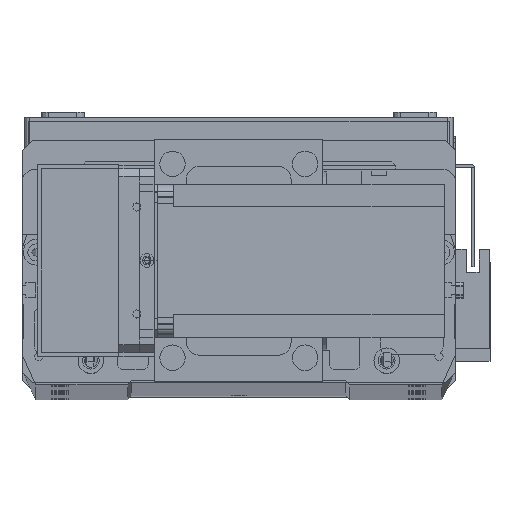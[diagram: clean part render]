
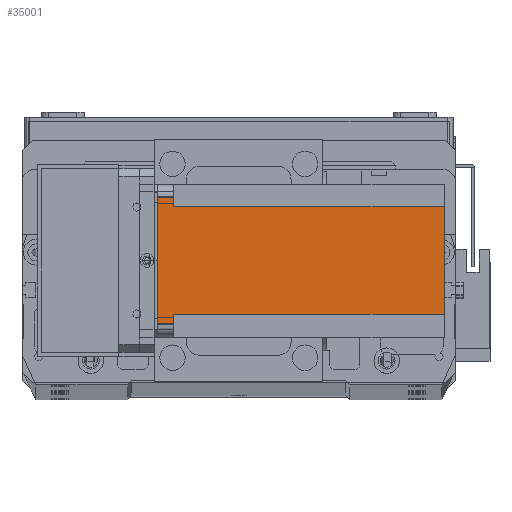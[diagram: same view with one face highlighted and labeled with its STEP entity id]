
A CAD part, top view. The second image highlights one B-rep face of the part: STEP entity #35001.
In plain terms, the highlighted planar face has unit normal (0, 0, 1) as drawn and (-1, 0, 0) by its records, which use the part's own axes.
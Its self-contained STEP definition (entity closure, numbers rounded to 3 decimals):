
#119 = CARTESIAN_POINT ( 'NONE',  ( 0., 55., -6.5 ) ) ;
#658 = ORIENTED_EDGE ( 'NONE', *, *, #26443, .T. ) ;
#1373 = CARTESIAN_POINT ( 'NONE',  ( 0., 5., 0. ) ) ;
#1665 = CARTESIAN_POINT ( 'NONE',  ( 0., 9., -6.5 ) ) ;
#1771 = DIRECTION ( 'NONE',  ( -1., 0., 0. ) ) ;
#2442 = DIRECTION ( 'NONE',  ( 0., 0., 1. ) ) ;
#3453 = CARTESIAN_POINT ( 'NONE',  ( 0., 51., -112.5 ) ) ;
#4426 = DIRECTION ( 'NONE',  ( 0., -1., 0. ) ) ;
#5078 = VECTOR ( 'NONE', #8836, 1000. ) ;
#5474 = LINE ( 'NONE', #20274, #32471 ) ;
#5624 = LINE ( 'NONE', #15463, #30086 ) ;
#5715 = VERTEX_POINT ( 'NONE', #21776 ) ;
#5889 = VERTEX_POINT ( 'NONE', #14224 ) ;
#6624 = VECTOR ( 'NONE', #4426, 1000. ) ;
#7289 = ORIENTED_EDGE ( 'NONE', *, *, #33326, .F. ) ;
#7454 = LINE ( 'NONE', #20537, #6624 ) ;
#8760 = EDGE_CURVE ( 'NONE', #34028, #33989, #29312, .T. ) ;
#8836 = DIRECTION ( 'NONE',  ( 0., 0., -1. ) ) ;
#10099 = CARTESIAN_POINT ( 'NONE',  ( 0., 5., -6.5 ) ) ;
#10192 = FACE_OUTER_BOUND ( 'NONE', #19444, .T. ) ;
#11900 = DIRECTION ( 'NONE',  ( 0., 1., 0. ) ) ;
#12153 = DIRECTION ( 'NONE',  ( 0., 0., -1. ) ) ;
#13377 = EDGE_CURVE ( 'NONE', #23646, #5889, #19008, .T. ) ;
#14079 = EDGE_CURVE ( 'NONE', #33989, #5889, #32917, .T. ) ;
#14224 = CARTESIAN_POINT ( 'NONE',  ( 0., 9., -112.5 ) ) ;
#14913 = VECTOR ( 'NONE', #11900, 1000. ) ;
#14930 = DIRECTION ( 'NONE',  ( 0., 1., 0. ) ) ;
#15231 = CARTESIAN_POINT ( 'NONE',  ( 0., 0., -112.5 ) ) ;
#15463 = CARTESIAN_POINT ( 'NONE',  ( 0., 51., -112.5 ) ) ;
#17449 = VERTEX_POINT ( 'NONE', #119 ) ;
#18197 = DIRECTION ( 'NONE',  ( 0., 0., 1. ) ) ;
#18607 = CARTESIAN_POINT ( 'NONE',  ( 0., 5., -112.5 ) ) ;
#19008 = LINE ( 'NONE', #29508, #32537 ) ;
#19444 = EDGE_LOOP ( 'NONE', ( #31495, #658, #21982, #19556, #7289, #20192, #31427, #31394 ) ) ;
#19551 = VECTOR ( 'NONE', #14930, 1000. ) ;
#19556 = ORIENTED_EDGE ( 'NONE', *, *, #28963, .T. ) ;
#19809 = VERTEX_POINT ( 'NONE', #20190 ) ;
#19928 = VECTOR ( 'NONE', #2442, 1000. ) ;
#20190 = CARTESIAN_POINT ( 'NONE',  ( 0., 51., -6.5 ) ) ;
#20192 = ORIENTED_EDGE ( 'NONE', *, *, #34046, .F. ) ;
#20274 = CARTESIAN_POINT ( 'NONE',  ( 0., 55., -112.5 ) ) ;
#20537 = CARTESIAN_POINT ( 'NONE',  ( 0., 0., 0. ) ) ;
#20653 = DIRECTION ( 'NONE',  ( 0., -1., 0. ) ) ;
#21776 = CARTESIAN_POINT ( 'NONE',  ( 0., 55., 0. ) ) ;
#21982 = ORIENTED_EDGE ( 'NONE', *, *, #32195, .F. ) ;
#22718 = CARTESIAN_POINT ( 'NONE',  ( 0., 0., -6.5 ) ) ;
#23646 = VERTEX_POINT ( 'NONE', #3453 ) ;
#24959 = CARTESIAN_POINT ( 'NONE',  ( 0., 9., -112.5 ) ) ;
#25564 = AXIS2_PLACEMENT_3D ( 'NONE', #15231, #1771, #20653 ) ;
#26443 = EDGE_CURVE ( 'NONE', #34028, #30969, #28004, .T. ) ;
#28004 = LINE ( 'NONE', #18607, #19928 ) ;
#28963 = EDGE_CURVE ( 'NONE', #5715, #17449, #5474, .T. ) ;
#29312 = LINE ( 'NONE', #22718, #14913 ) ;
#29508 = CARTESIAN_POINT ( 'NONE',  ( 0., 0., -112.5 ) ) ;
#30086 = VECTOR ( 'NONE', #18197, 1000. ) ;
#30969 = VERTEX_POINT ( 'NONE', #1373 ) ;
#31394 = ORIENTED_EDGE ( 'NONE', *, *, #14079, .F. ) ;
#31427 = ORIENTED_EDGE ( 'NONE', *, *, #13377, .T. ) ;
#31495 = ORIENTED_EDGE ( 'NONE', *, *, #8760, .F. ) ;
#32114 = DIRECTION ( 'NONE',  ( 0., -1., 0. ) ) ;
#32195 = EDGE_CURVE ( 'NONE', #5715, #30969, #7454, .T. ) ;
#32471 = VECTOR ( 'NONE', #12153, 1000. ) ;
#32537 = VECTOR ( 'NONE', #32114, 1000. ) ;
#32917 = LINE ( 'NONE', #24959, #5078 ) ;
#33326 = EDGE_CURVE ( 'NONE', #19809, #17449, #33947, .T. ) ;
#33850 = CARTESIAN_POINT ( 'NONE',  ( 0., 60., -6.5 ) ) ;
#33947 = LINE ( 'NONE', #33850, #19551 ) ;
#33989 = VERTEX_POINT ( 'NONE', #1665 ) ;
#34028 = VERTEX_POINT ( 'NONE', #10099 ) ;
#34046 = EDGE_CURVE ( 'NONE', #23646, #19809, #5624, .T. ) ;
#34160 = PLANE ( 'NONE',  #25564 ) ;
#35001 = ADVANCED_FACE ( 'NONE', ( #10192 ), #34160, .T. ) ;
